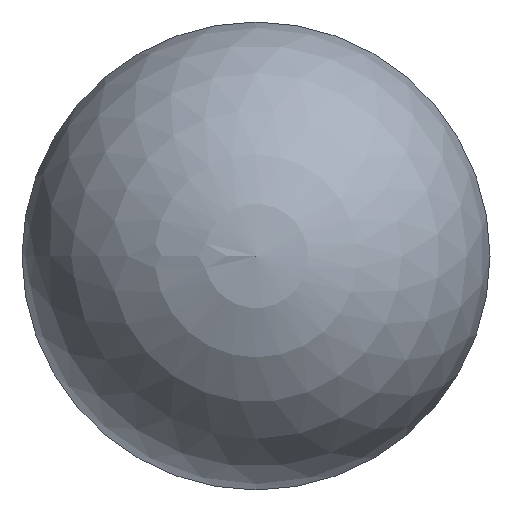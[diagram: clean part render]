
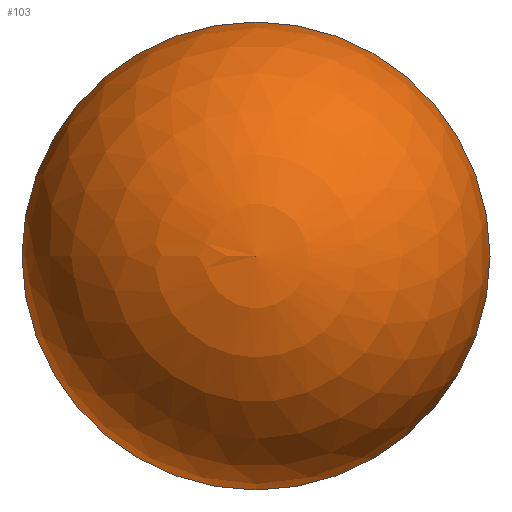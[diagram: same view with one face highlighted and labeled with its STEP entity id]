
A CAD part, left-side view. The second image highlights one B-rep face of the part: STEP entity #103.
In plain terms, the highlighted spherical face has radius 6 mm.
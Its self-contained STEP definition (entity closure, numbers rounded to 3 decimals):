
#101=SPHERICAL_SURFACE('',#134,6.);
#103=ADVANCED_FACE('',(#108),#101,.T.);
#108=FACE_OUTER_BOUND('',#110,.T.);
#110=EDGE_LOOP('',(#116));
#116=ORIENTED_EDGE('',*,*,#125,.T.);
#122=VERTEX_POINT('',#159);
#125=EDGE_CURVE('',#122,#122,#128,.T.);
#128=CIRCLE('',#133,6.);
#133=AXIS2_PLACEMENT_3D('',#158,#144,#145);
#134=AXIS2_PLACEMENT_3D('',#160,#146,#147);
#144=DIRECTION('',(-1.,0.,0.));
#145=DIRECTION('',(0.,0.,1.));
#146=DIRECTION('',(-1.,0.,0.));
#147=DIRECTION('',(0.,1.,0.));
#158=CARTESIAN_POINT('',(7897.207,6133.599,0.));
#159=CARTESIAN_POINT('',(7897.207,6133.599,6.));
#160=CARTESIAN_POINT('',(7897.21,6133.599,0.));
